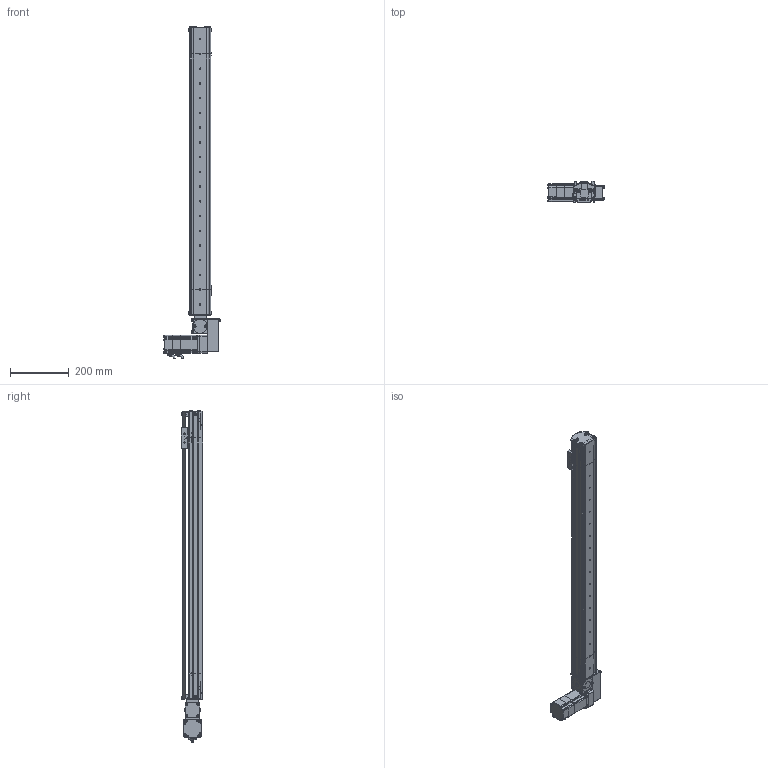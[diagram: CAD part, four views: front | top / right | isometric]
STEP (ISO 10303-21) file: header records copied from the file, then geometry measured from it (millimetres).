
FILE_DESCRIPTION (( 'STEP AP214' ), '1' );
FILE_NAME ('S07 TBN LH S800.STEP', '2010-06-29T11:41:12', ( 'Conseil Régional Haute-Normandie' ), ( 'Conseil Régional Haute-Normandie' ), 'SwSTEP 2.0', 'SolidWorks 2010', '' );
FILE_SCHEMA (( 'AUTOMOTIVE_DESIGN' ));
Length unit declared in the file: millimetre
Products named in the file (41): vis M5 L12_Default; GMB 60 90 310_Default; Vis M5 L16-2_Default; Cvis M5 L30_Default; renvoi LH_Default; corp tail TB_Default; S07 TB tail (78)_Default; P1_Default; P3 90A_Default; T皻e de poulie_Default; couvercle tail TB; plaque de bout_Default; Axe 60BLDC_Default; P4_Default; VisM3_Default; Plaque racord_Default; Poulie_Default; Conecteur2 60BLDC_Default; Conecteur 60BLDC_Default; P2 90A_Default; Chariot; guide; CHariot_Default; vis M5 L16_Default; couroie tail_Default; couvercle moteur S07 TB; plaque de bout LH_Default; Course C L800_Default; cache t皻e_Default; Poulie head_Default; Couroie t皻e_Default; Pièce5^S07 LH(146); vis M5 L5_Default; Couroie  course 800_Default; Corp S07 course 800_Default; cache t皻e axe_Default; corp moteur LH-RH(146)_Default; S07 LH(146)_Default; couvercle S07 course 800 ; S07 TBN LH S800
Assembly tree (80 placements, depth 4):
  Pièce5^S07 LH(146)
  S07 TBN LH S800
    CHariot_Default
      vis M5 L16_Default  x2
      guide
      Chariot
    Course C L800_Default
      couvercle S07 course 800 
      Corp S07 course 800_Default
      Couroie  course 800_Default
    S07 LH(146)_Default
      vis M5 L12_Default  x6
      Vis M5 L16-2_Default  x8
      plaque de bout LH_Default
      Couroie t皻e_Default
      vis M5 L5_Default  x6
      couvercle moteur S07 TB
      cache t皻e axe_Default
      Cvis M5 L30_Default  x2
      Plaque racord_Default
      cache t皻e_Default  x2
      Poulie head_Default
      corp moteur LH-RH(146)_Default
      renvoi LH_Default
      GMB 60 90 310_Default
        VisM3_Default  x12
        Conecteur2 60BLDC_Default
        P1_Default
        P3 90A_Default
        P2 90A_Default
        Axe 60BLDC_Default
        Conecteur 60BLDC_Default
        P4_Default
    S07 TB tail (78)_Default
      vis M5 L12_Default  x10
      corp tail TB_Default
      couvercle tail TB
      Poulie_Default
        T皻e de poulie_Default
        Poulie_Default
      plaque de bout_Default
      couroie tail_Default
Bounding box: 190.2 x 72.2 x 1127 mm (x, y, z)
Volume: 2335349.3 mm3; surface area: 979678.3 mm2
Topology: 102 solids, 102 shells, 3926 faces, 9780 edges, 6317 vertices
Faces by surface type: plane 2232, cylinder 764, bspline 677, cone 125, torus 124, sphere 4
Entity records: 167329 total; most frequent: CARTESIAN_POINT 75227, ORIENTED_EDGE 15472, DIRECTION 12313, EDGE_CURVE 7736, VERTEX_POINT 5105, VECTOR 5051, LINE 5051, AXIS2_PLACEMENT_3D 3631
